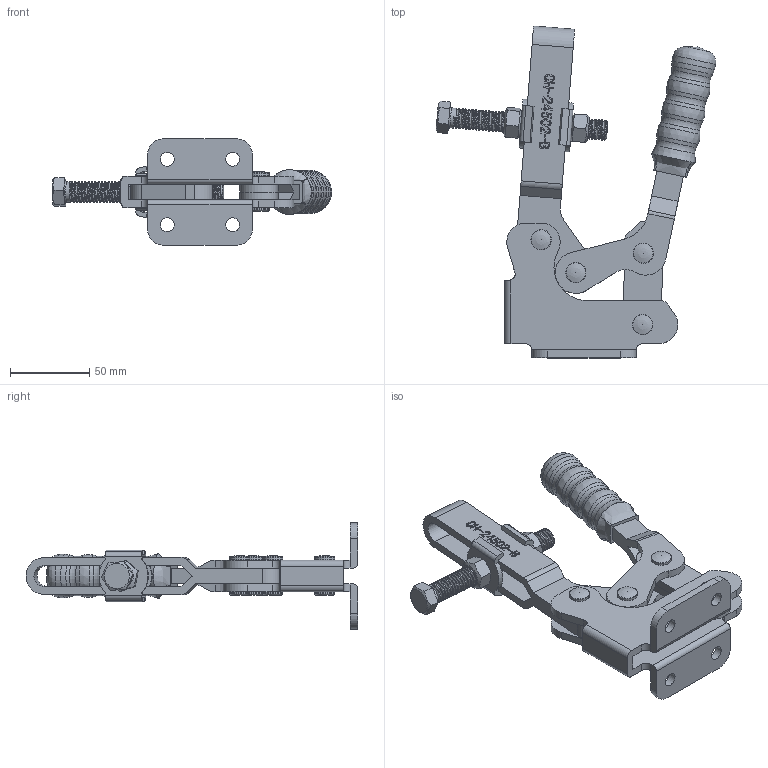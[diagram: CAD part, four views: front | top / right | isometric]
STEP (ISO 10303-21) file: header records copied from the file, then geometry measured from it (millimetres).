
FILE_DESCRIPTION(/* description */ ('STEP AP203'),/* implementation_level */ '2;1');
FILE_NAME(/* name */ 'E:\STRONA\Horizontal toggle clamp\CH-24502-B\CH-24502-B_OTWARTY.stp',/* time_stamp */ '2019-01-14T16:13:37+01:00',/* author */ ('Admin'),/* organization */ ('·L?¤¤?'),/* preprocessor_version */ 'ST-DEVELOPER v17.2',/* originating_system */ 'Autodesk Inventor 2019',/* authorisation */ '');
FILE_SCHEMA (('AUTOMOTIVE_DESIGN { 1 0 10303 214 3 1 1 }'));
Products named in the file (11): CH-24502-B_OTWARTY; CH-24502-B-06___; CH-SA-121017___; FW120___; CH-24502-B-02___; CH-24502-B-01___; CH-24502-B-05___; CH-24502-B-03___; M12___; CH-24502-B-04___; 101-J-06___
Assembly tree (17 placements, depth 2):
  CH-24502-B_OTWARTY
    FW120___  x2
    CH-24502-B-06___
    CH-24502-B-05___  x4
    101-J-06___  x2
    CH-SA-121017___
    M12___  x2
    CH-24502-B-02___
    CH-24502-B-01___
    CH-24502-B-03___
    CH-24502-B-04___  x2
Bounding box: 176.28 x 209.27 x 67 mm (x, y, z)
Volume: 220767.1 mm3; surface area: 106042.9 mm2
Topology: 17 solids, 17 shells, 731 faces, 2064 edges, 1397 vertices
Faces by surface type: plane 313, bspline 213, cylinder 156, cone 28, torus 21
Full cylindrical faces by diameter (mm): 3.271 x1, 4.268 x1, 8.7 x4, 9.4 x4, 9.5 x14, 10.5 x8, 12.7 x50, 12.8 x8, 13 x2, 27.301 x1
Entity records: 56560 total; most frequent: CARTESIAN_POINT 40803, ORIENTED_EDGE 3624, DIRECTION 2472, EDGE_CURVE 1812, VERTEX_POINT 1224, LINE 986, VECTOR 986, AXIS2_PLACEMENT_3D 743
